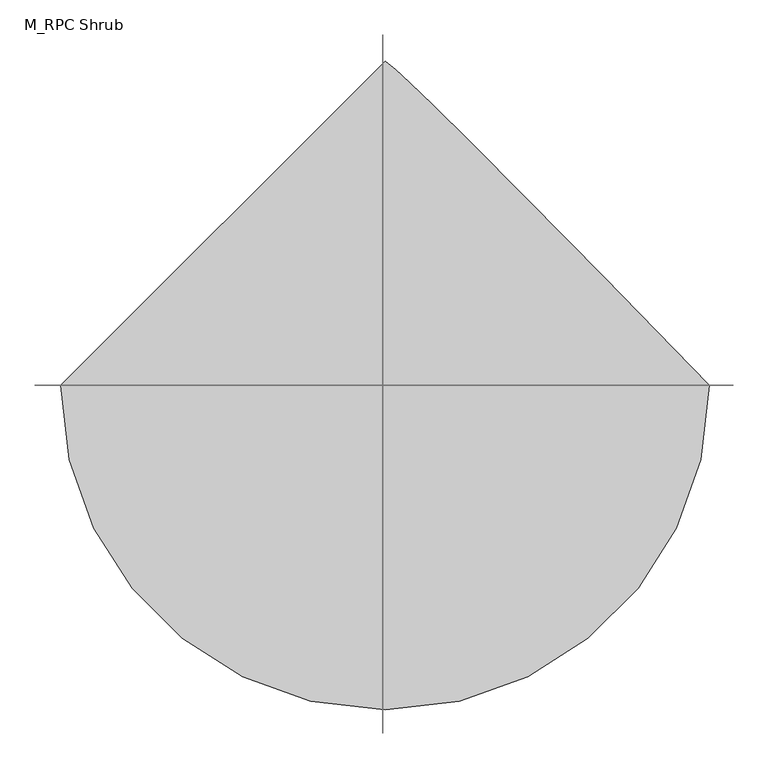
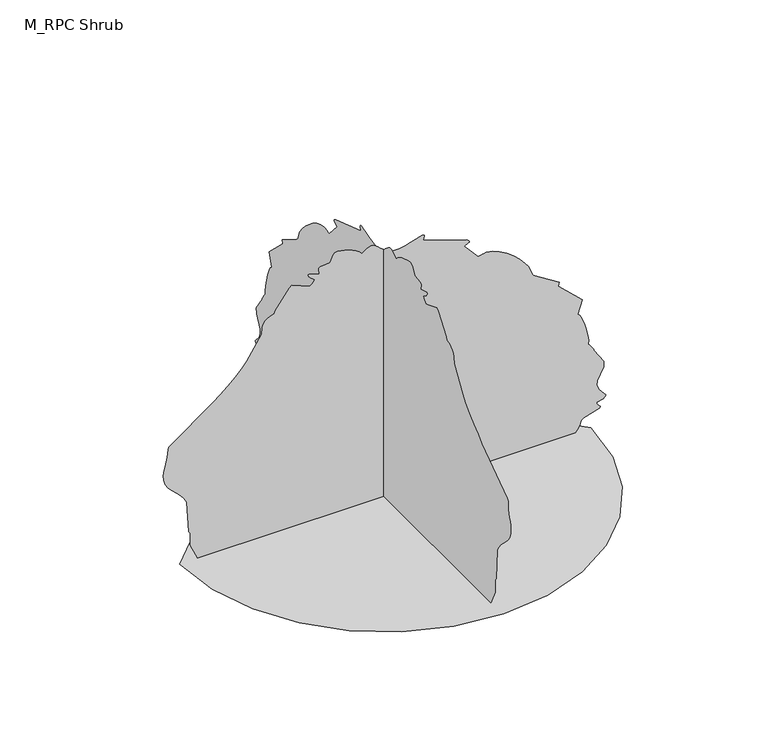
"""IFC4 building model written with IfcOpenShell, lengths in millimetres: geographic element geometry, M_RPC Shrub : Holly - 3.5 Meters."""

from ifc_helpers import new_model, si_unit, origin, place, context, project, spatial, triangles, source, transform, mapped, element, save


def m_rpc_shrub_6250ff07(model_context):
    return source(origin(), model_context, "Body", "Tessellation", [
        triangles([(-2613.0091095, 0.0, 0.0004364), (-2543.9330933, -598.7288976, 0.0004364), (-2347.1910324, -1148.5670294, 0.0004364), (-2038.5469357, -1633.7579807, 0.0004364), (-1633.7579807, -2038.5469357, 0.0004364), (-1148.5670294, -2347.1910324, 0.0004364), (-598.7288976, -2543.9261169, 0.0004364), (0.0001142, -2613.0091095, 0.0004364), (598.7288976, -2543.9330933, 0.0004364), (1148.5670294, -2347.1910324, 0.0004364), (1633.7579807, -2038.5469357, 0.0004364), (2038.5469357, -1633.7579807, 0.0004364), (2347.1910324, -1148.5670294, 0.0004364), (2543.9261169, -598.7288976, 0.0004364), (2613.0091095, 0.0002284, 0.0004364), (1763.8389942, 871.0379665, 0.0004364), (1134.308016, 1512.3499844, 0.0004364), (687.8059822, 1962.2120602, 0.0004364), (387.7321109, 2258.9209843, 0.0004364), (197.4770087, 2440.7670067, 0.0004364), (80.4348978, 2546.0329651, 0.0004364), (-0.0003427, 2613.0091095, 0.0004364), (-20.6931909, -537.8876985, 3492.3908981), (-20.6931909, -493.9913953, 3481.5340027), (-20.6931909, -446.5405126, 3466.4631203), (-20.6931909, -398.1698095, 3446.9680893), (-20.6931909, -351.5197137, 3422.8599678), (-20.6931909, -309.225711, 3393.9358612), (-20.6931909, -273.9261033, 3359.9928749), (-20.6931909, -265.4603046, 3364.0600685), (-20.6931909, -251.206905, 3374.4199013), (-20.6931909, -232.9663033, 3388.3641083), (-20.6931909, -212.533993, 3403.1480896), (-20.6931909, -191.7124987, 3416.0490463), (-20.6931909, -172.2980042, 3424.3229599), (-20.6931909, -156.0894914, 3425.260984), (-20.6931909, -132.6961972, 3420.256057), (-20.6931909, -104.7451962, 3404.4009201), (-20.6931909, -73.4769013, 3380.6570206), (-20.6931909, -40.1275016, 3351.9919098), (-20.6931909, -5.9389402, 3321.3670349), (-20.6931909, 27.8520904, 3291.742971), (-20.6931909, 60.0058895, 3266.0881416), (-20.6931909, 123.8257994, 3255.1120674), (-20.6931909, 196.4795042, 3260.201001), (-20.6931909, 272.2405048, 3275.9439354), (-20.6931909, 345.3828063, 3296.8949821), (-20.6931909, 491.8346955, 3336.787896), (-20.6931909, 507.0989164, 3334.9749252), (-20.6931909, 514.4426179, 3326.2248779), (-20.6931909, 515.8964899, 3313.086145), (-20.6931909, 503.4364946, 3267.1729591), (-20.6931909, 1055.9149813, 3079.7689911), (-20.6931909, 1083.5579887, 3058.327858), (-20.6931909, 1088.6259933, 3046.9669235), (-20.6931909, 1085.5179708, 3037.475061), (-20.6931909, 1076.4739735, 3029.3409645), (-20.6931909, 1025.5490295, 3000.3188988), (-20.6931909, 1199.5830288, 2803.0800659), (-20.6931909, 1206.3379944, 2803.9619888), (-20.6931909, 1218.8540182, 2806.3490524), (-20.6931909, 1235.3180569, 2809.8139572), (-20.6931909, 1253.8890163, 2813.950914), (-20.6931909, 1272.7400459, 2818.3541336), (-20.6931909, 1290.0580296, 2822.6030022), (-20.6931909, 1304.0019459, 2826.2850449), (-20.6931909, 1384.8589291, 2812.5649521), (-20.6931909, 1472.3099865, 2775.325074), (-20.6931909, 1561.6160179, 2720.4240646), (-20.6931909, 1648.0450447, 2653.735112), (-20.6931909, 1726.8790409, 2581.1241371), (-20.6931909, 1793.3649536, 2508.4500847), (-20.6931909, 1842.7920238, 2441.5861427), (-20.6931909, 1892.107037, 2309.9719379), (-20.6931909, 2232.2019756, 2095.3309696), (-20.6931909, 2220.595998, 2048.9210117), (-20.6931909, 2522.2608696, 1758.8549961), (-20.6931909, 2464.2519104, 1584.8209969), (-20.6931909, 2490.2849144, 1564.1360676), (-20.6931909, 2519.188092, 1509.7040703), (-20.6931909, 2548.0069725, 1432.9840439), (-20.6931909, 2573.7949333, 1345.4350273), (-20.6931909, 2593.6050613, 1258.5019615), (-20.6931909, 2604.4828857, 1183.6510071), (-20.6931909, 2603.4750984, 1132.3270323), (-20.6931909, 2611.728083, 1125.5369671), (-20.6931909, 2622.6059074, 1113.1960052), (-20.6931909, 2634.8699844, 1097.0679926), (-20.6931909, 2647.2881218, 1078.9239693), (-20.6931909, 2658.6281273, 1060.5279991), (-20.6931909, 2667.6368797, 1043.6580259), (-20.6931909, 2673.0900352, 1030.0779682), (-20.6931909, 2799.993045, 839.3630104), (-20.6931909, 2794.5259369, 762.6360077), (-20.6931909, 2713.011145, 603.3377006), (-20.6931909, 2710.18312, 546.5354991), (-20.6931909, 2742.5509117, 474.2121883), (-20.6931909, 2823.9258865, 378.1687048), (-20.6931909, 2819.1311211, 360.6085121), (-20.6931909, 2806.3769577, 347.2595086), (-20.6931909, 2788.0789467, 337.4504053), (-20.6931909, 2707.9009918, 320.1561848), (-20.6931909, 2707.6841446, 304.0604012), (-20.6931909, 2713.9139969, 290.497203), (-20.6931909, 2753.3310677, 249.1531059), (-20.6931909, 2754.3109497, 238.9393943), (-20.6931909, 2741.8788597, 224.930293), (-20.6931909, 2542.0148964, 166.401907), (-20.6931909, 2510.654892, 146.1200963), (-20.6931909, 2507.7428604, 124.6118978), (-20.6931909, 2501.1490768, 103.4600003), (-20.6931909, 2491.5028633, 82.6055956), (-20.6931909, 2479.4001137, 61.9882903), (-20.6931909, 2465.4559067, 41.5498303), (-20.6931909, 2450.2940414, 21.2299496), (-20.6931909, 2434.5159348, 0.969458), (-20.6931909, -2362.0030643, 0.0), (-20.6931909, -2455.1870567, 204.1319077), (-20.6931909, -2455.1870567, 366.5662153), (-20.6931909, -2474.4018723, 391.583511), (-20.6931909, -2499.4201126, 794.4089956), (-20.6931909, -2530.6891342, 855.2390036), (-20.6931909, -2576.1889732, 910.9590036), (-20.6931909, -2629.6339668, 963.9000309), (-20.6931909, -2684.7239182, 1016.4070004), (-20.6931909, -2735.1940933, 1070.8110197), (-20.6931909, -2774.7440048, 1129.457004), (-20.6931909, -2797.0949661, 1194.6900135), (-20.6931909, -2801.0569336, 1251.2779839), (-20.6931909, -2795.6598793, 1303.7710007), (-20.6931909, -2784.2149384, 1353.0860138), (-20.6931909, -2770.0538841, 1400.154071), (-20.6931909, -2746.8910538, 1491.216972), (-20.6931909, -2738.5540627, 1589.2870033), (-20.6931909, -2727.5218872, 1615.1239437), (-20.6931909, -2719.3180275, 1623.705978), (-20.6931909, -2162.6149441, 2020.9490273), (-20.6931909, -2077.4599674, 2092.7270588), (-20.6931909, -1981.6790405, 2175.1169426), (-20.6931909, -1886.0659813, 2262.2040688), (-20.6931909, -1801.3939693, 2348.0590027), (-20.6931909, -1738.4499916, 2426.7669891), (-20.6931909, -1550.1920059, 2721.8588608), (-20.6931909, -1542.4709656, 2813.0341095), (-20.6931909, -1530.3330437, 2850.7919792), (-20.6931909, -1510.4460308, 2882.9010658), (-20.6931909, -1481.1649693, 2909.0669106), (-20.6931909, -1440.8239723, 2928.9749977), (-20.6931909, -1387.757008, 2942.3099396), (-20.6931909, -1378.9159779, 2981.0340294), (-20.6931909, -1199.7299675, 3217.5009911), (-20.6931909, -1167.3129782, 3243.9679802), (-20.6931909, -935.2629707, 3151.1480644), (-20.6931909, -927.4649729, 3155.1379372), (-20.6931909, -917.8050247, 3163.1740746), (-20.6931909, -907.2980352, 3174.0239937), (-20.6931909, -877.2540115, 3220.7630013), (-20.6931909, -934.115003, 3265.0030334), (-20.6931909, -949.6899971, 3282.6359688), (-20.6931909, -958.9509871, 3299.4079102), (-20.6931909, -958.4680223, 3313.582917), (-20.6931909, -945.699979, 3318.2590851), (-20.6931909, -819.2380033, 3278.7789368), (-20.6931909, -824.9850363, 3342.7168945), (-20.6931909, -823.3750328, 3352.6779144), (-20.6931909, -819.2380033, 3359.9928749), (-20.6931909, -806.5469902, 3365.9361168), (-20.6931909, -686.8939013, 3381.4688896), (-20.6931909, -680.0114725, 3383.1981445), (-20.6931909, -637.239374, 3467.8700111), (-20.6931909, -618.2547043, 3488.1838875), (-20.6931909, -597.453503, 3500.0000267), (-20.6931909, -575.589685, 3499.2230392), (-558.5804034, -0.0002187, 3492.3908981), (-514.6841002, -0.0002177, 3481.5340027), (-467.2332175, -0.0002169, 3466.4631203), (-418.8625145, -0.000216, 3446.9680893), (-372.2123823, -0.000215, 3422.8599678), (-329.9191063, -0.0002137, 3393.9358612), (-294.6194986, -0.0002118, 3359.9928749), (-286.1536999, -0.0002119, 3364.0600685), (-271.9003003, -0.0002123, 3374.4199013), (-253.6590082, -0.0002129, 3388.3641083), (-233.226698, -0.0002136, 3403.1480896), (-212.405894, -0.0002143, 3416.0490463), (-192.990691, -0.0002151, 3424.3229599), (-176.7829049, -0.0002157, 3425.260984), (-153.3888931, -0.0002135, 3420.256057), (-125.4379012, -0.0002119, 3404.4009201), (-94.1695972, -0.0002106, 3380.6570206), (-60.8204791, -0.0002095, 3351.9919098), (-26.6319205, -0.0002085, 3321.3670349), (7.15911, -0.0002074, 3291.742971), (39.312912, -0.0002062, 3266.0881416), (103.132404, -0.0002055, 3255.1120674), (175.7861089, -0.0002057, 3260.201001), (251.5477999, -0.0002065, 3275.9439354), (324.6901013, -0.0002077, 3296.8949821), (471.1413002, -0.0002104, 3336.787896), (486.4054848, -0.00021, 3334.9749252), (493.7491862, -0.0002093, 3326.2248779), (495.2030946, -0.0002086, 3313.086145), (482.7437897, -0.0002063, 3267.1729591), (1035.223003, -0.0001944, 3079.7689911), (1062.8660105, -0.0001938, 3058.327858), (1067.9340151, -0.0001934, 3046.9669235), (1064.8259926, -0.000193, 3037.475061), (1055.7819952, -0.0001925, 3029.3409645), (1004.8569786, -0.0001904, 3000.3188988), (1178.8909779, -0.0001786, 2803.0800659), (1185.6460161, -0.0001786, 2803.9619888), (1198.1619673, -0.0001788, 2806.3490524), (1214.6260059, -0.000179, 2809.8139572), (1233.1969654, -0.0001792, 2813.950914), (1252.047995, -0.0001795, 2818.3541336), (1269.3659786, -0.0001798, 2822.6030022), (1283.3100403, -0.00018, 2826.2850449), (1364.1670235, -0.0001792, 2812.5649521), (1451.6179356, -0.0001769, 2775.325074), (1540.923967, -0.0001737, 2720.4240646), (1627.3529938, -0.0001697, 2653.735112), (1706.1800137, -0.0001654, 2581.1241371), (1772.673048, -0.000161, 2508.4500847), (1822.0999729, -0.000157, 2441.5861427), (1871.4080097, -0.0001492, 2309.9719379), (2211.51007, -0.0001364, 2095.3309696), (2199.9039471, -0.0001336, 2048.9210117), (2501.5691093, -0.0001164, 1758.8619724), (2443.5528831, -0.000106, 1584.8209969), (2469.5928635, -0.0001047, 1564.1360676), (2498.4960411, -0.0001015, 1509.7040703), (2527.3149216, -9.69e-05, 1432.9840439), (2553.1028824, -9.17e-05, 1345.4350273), (2572.9060341, -8.65e-05, 1258.5019615), (2583.7838585, -8.21e-05, 1183.6510071), (2582.7830475, -7.9e-05, 1132.3270323), (2591.0360321, -7.86e-05, 1125.5369671), (2601.9138565, -7.79e-05, 1113.1960052), (2614.1779335, -7.69e-05, 1097.0679926), (2626.5960709, -7.58e-05, 1078.9239693), (2637.9291, -7.47e-05, 1060.5279991), (2646.9451195, -7.37e-05, 1043.6580259), (2652.3979843, -7.29e-05, 1030.0779682), (2779.3009941, -6.15e-05, 839.3630104), (2773.833886, -5.7e-05, 762.6360077), (2692.3190941, -4.75e-05, 603.3377006), (2689.491069, -4.41e-05, 546.5354991), (2721.8588608, -3.98e-05, 474.2121883), (2803.2341263, -3.41e-05, 378.1687048), (2798.4390701, -3.3e-05, 360.6085121), (2785.6849068, -3.22e-05, 347.260199), (2767.3868958, -3.16e-05, 337.4504053), (2687.2089409, -3.06e-05, 320.1569115), (2686.9920937, -3.05e-05, 304.0604012), (2693.221946, -2.98e-05, 290.497203), (2732.6390167, -2.6e-05, 249.1537963), (2733.6188988, -2.58e-05, 238.9393943), (2721.1870995, -2.5e-05, 224.930293), (2521.3231361, -2.07e-05, 166.401907), (2489.9631317, -2.02e-05, 146.1200963), (2487.0511002, -2.07e-05, 124.6118978), (2480.4570259, -2.06e-05, 103.4600003), (2470.8041267, -2.01e-05, 82.6055956), (2458.7080627, -1.91e-05, 61.988431), (2444.7638557, -1.79e-05, 41.5500392), (2429.6019905, -1.65e-05, 21.2300904), (2413.8240292, -1.51e-05, 0.96964), (-2382.6949699, -1.13e-05, 0.0001851), (-2475.8791077, -2.37e-05, 204.1325981), (-2475.8791077, -3.34e-05, 366.5662153), (-2495.0939232, -3.49e-05, 391.583511), (-2520.1118729, -5.89e-05, 794.4089956), (-2551.3878708, -6.25e-05, 855.2459799), (-2596.8810242, -6.58e-05, 910.9590036), (-2650.3260178, -6.9e-05, 963.9000309), (-2705.4229454, -7.21e-05, 1016.4070004), (-2755.8861443, -7.53e-05, 1070.8110197), (-2795.4360558, -7.88e-05, 1129.457004), (-2817.7870171, -8.27e-05, 1194.6900135), (-2821.7489845, -8.61e-05, 1251.2779839), (-2816.3519302, -8.92e-05, 1303.7710007), (-2804.9069893, -9.22e-05, 1353.0860138), (-2790.7459351, -9.5e-05, 1400.154071), (-2767.5831047, -0.0001004, 1491.216972), (-2759.2530899, -0.0001063, 1589.2870033), (-2748.2139381, -0.0001079, 1615.1239437), (-2740.0170547, -0.0001085, 1623.705978), (-2183.306995, -0.000133, 2020.9490273), (-2098.1520184, -0.000138, 2092.7270588), (-2002.3709461, -0.0001435, 2175.1169426), (-1906.7580322, -0.0001491, 2262.2040688), (-1822.0860203, -0.0001542, 2348.0590027), (-1759.1420425, -0.0001583, 2426.7669891), (-1570.8840569, -0.0001738, 2721.8588608), (-1563.1630165, -0.0001792, 2813.0341095), (-1551.0249493, -0.0001814, 2850.7919792), (-1531.1379364, -0.0001834, 2882.9010658), (-1501.8570202, -0.0001849, 2909.0669106), (-1461.5160233, -0.0001861, 2928.9749977), (-1408.4560352, -0.0001869, 2942.3099396), (-1399.6080288, -0.0001892, 2981.0340294), (-1220.4289948, -0.0002033, 3217.5009911), (-1188.0050291, -0.0002049, 3243.9679802), (-955.9550217, -0.0001993, 3151.1480644), (-948.1570238, -0.0001996, 3155.1379372), (-938.497003, -0.0002001, 3163.1740746), (-927.9900135, -0.0002007, 3174.0239937), (-897.9459898, -0.0002035, 3220.7630013), (-954.8069813, -0.000206, 3265.0030334), (-970.3819754, -0.0002071, 3282.6359688), (-979.6429653, -0.0002081, 3299.4079102), (-979.1600006, -0.000209, 3313.582917), (-966.39203, -0.0002086, 3318.2590851), (-839.9370306, -0.000207, 3278.7789368), (-845.6770145, -0.0002101, 3342.7168945), (-844.0670111, -0.0002109, 3352.6779144), (-839.9370306, -0.0002118, 3359.9928749), (-827.2389685, -0.0002118, 3365.9361168), (-707.5879869, -0.000213, 3381.4688896), (-700.7070116, -0.0002132, 3383.1981445), (-657.9320789, -0.0002165, 3467.8700111), (-638.9481359, -0.0002177, 3488.1838875), (-618.1469347, -0.0002189, 3500.0000267), (-596.2831166, -0.0002201, 3499.2230392)], [[21, 22, 1], [20, 21, 1], [19, 20, 1], [18, 19, 1], [17, 18, 1], [17, 1, 2], [17, 2, 3], [17, 3, 4], [16, 17, 4], [16, 4, 5], [16, 5, 6], [16, 6, 7], [16, 7, 8], [16, 8, 9], [16, 9, 10], [16, 10, 11], [16, 11, 12], [15, 16, 12], [14, 15, 12], [13, 14, 12], [74, 75, 76], [160, 161, 162], [116, 117, 118], [116, 118, 119], [76, 77, 78], [159, 160, 162], [158, 159, 162], [157, 158, 162], [157, 162, 163], [151, 152, 153], [115, 116, 119], [114, 115, 119], [113, 114, 119], [112, 113, 119], [111, 112, 119], [110, 111, 119], [109, 110, 119], [97, 98, 99], [97, 99, 100], [97, 100, 101], [97, 101, 102], [109, 119, 120], [109, 120, 121], [109, 121, 122], [105, 106, 107], [104, 105, 107], [104, 107, 108], [103, 104, 108], [150, 151, 153], [149, 150, 153], [48, 49, 50], [48, 50, 51], [48, 51, 52], [47, 48, 52], [109, 122, 123], [54, 55, 56], [54, 56, 57], [53, 54, 57], [53, 57, 58], [52, 53, 58], [108, 109, 123], [102, 103, 108], [92, 93, 94], [92, 94, 95], [96, 97, 102], [96, 102, 108], [96, 108, 123], [95, 96, 123], [92, 95, 123], [91, 92, 123], [90, 91, 123], [89, 90, 123], [88, 89, 123], [87, 88, 123], [86, 87, 123], [85, 86, 123], [84, 85, 123], [83, 84, 123], [82, 83, 123], [81, 82, 123], [80, 81, 123], [79, 80, 123], [78, 79, 123], [76, 78, 123], [74, 76, 123], [73, 74, 123], [72, 73, 123], [71, 72, 123], [70, 71, 123], [69, 70, 123], [68, 69, 123], [67, 68, 123], [66, 67, 123], [65, 66, 123], [64, 65, 123], [63, 64, 123], [62, 63, 123], [61, 62, 123], [60, 61, 123], [59, 60, 123], [58, 59, 123], [52, 58, 123], [47, 52, 123], [46, 47, 123], [45, 46, 123], [44, 45, 123], [43, 44, 123], [42, 43, 123], [41, 42, 123], [40, 41, 123], [39, 40, 123], [38, 39, 123], [37, 38, 123], [36, 37, 123], [35, 36, 123], [34, 35, 123], [33, 34, 123], [32, 33, 123], [31, 32, 123], [30, 31, 123], [29, 30, 123], [29, 123, 124], [28, 29, 124], [27, 28, 124], [26, 27, 124], [25, 26, 124], [24, 25, 124], [23, 24, 124], [173, 23, 124], [173, 124, 125], [173, 125, 126], [165, 166, 167], [164, 165, 167], [163, 164, 167], [163, 167, 168], [171, 172, 173], [170, 171, 173], [169, 170, 173], [169, 173, 126], [168, 169, 126], [168, 126, 127], [168, 127, 128], [168, 128, 129], [168, 129, 130], [168, 130, 131], [168, 131, 132], [145, 146, 147], [145, 147, 148], [144, 145, 148], [144, 148, 149], [143, 144, 149], [143, 149, 153], [142, 143, 153], [134, 135, 136], [133, 134, 136], [133, 136, 137], [132, 133, 137], [142, 153, 154], [156, 157, 163], [156, 163, 168], [141, 142, 154], [132, 137, 138], [132, 138, 139], [141, 154, 155], [140, 141, 155], [155, 156, 168], [155, 168, 132], [140, 155, 132], [140, 132, 139], [225, 226, 227], [311, 312, 313], [267, 268, 269], [267, 269, 270], [227, 228, 229], [310, 311, 313], [309, 310, 313], [308, 309, 313], [308, 313, 314], [302, 303, 304], [266, 267, 270], [265, 266, 270], [264, 265, 270], [263, 264, 270], [262, 263, 270], [261, 262, 270], [260, 261, 270], [248, 249, 250], [248, 250, 251], [248, 251, 252], [248, 252, 253], [260, 270, 271], [260, 271, 272], [260, 272, 273], [256, 257, 258], [255, 256, 258], [255, 258, 259], [254, 255, 259], [301, 302, 304], [300, 301, 304], [199, 200, 201], [199, 201, 202], [199, 202, 203], [198, 199, 203], [260, 273, 274], [205, 206, 207], [205, 207, 208], [204, 205, 208], [204, 208, 209], [203, 204, 209], [259, 260, 274], [253, 254, 259], [243, 244, 245], [243, 245, 246], [247, 248, 253], [247, 253, 259], [247, 259, 274], [246, 247, 274], [243, 246, 274], [242, 243, 274], [241, 242, 274], [240, 241, 274], [239, 240, 274], [238, 239, 274], [237, 238, 274], [236, 237, 274], [235, 236, 274], [234, 235, 274], [233, 234, 274], [232, 233, 274], [231, 232, 274], [230, 231, 274], [229, 230, 274], [227, 229, 274], [225, 227, 274], [224, 225, 274], [223, 224, 274], [222, 223, 274], [221, 222, 274], [220, 221, 274], [219, 220, 274], [218, 219, 274], [217, 218, 274], [216, 217, 274], [215, 216, 274], [214, 215, 274], [213, 214, 274], [212, 213, 274], [211, 212, 274], [210, 211, 274], [209, 210, 274], [203, 209, 274], [198, 203, 274], [197, 198, 274], [196, 197, 274], [195, 196, 274], [194, 195, 274], [193, 194, 274], [192, 193, 274], [191, 192, 274], [190, 191, 274], [189, 190, 274], [188, 189, 274], [187, 188, 274], [186, 187, 274], [185, 186, 274], [184, 185, 274], [183, 184, 274], [182, 183, 274], [181, 182, 274], [180, 181, 274], [180, 274, 275], [179, 180, 275], [178, 179, 275], [177, 178, 275], [176, 177, 275], [175, 176, 275], [174, 175, 275], [324, 174, 275], [324, 275, 276], [324, 276, 277], [316, 317, 318], [315, 316, 318], [314, 315, 318], [314, 318, 319], [322, 323, 324], [321, 322, 324], [320, 321, 324], [320, 324, 277], [319, 320, 277], [319, 277, 278], [319, 278, 279], [319, 279, 280], [319, 280, 281], [319, 281, 282], [319, 282, 283], [296, 297, 298], [296, 298, 299], [295, 296, 299], [295, 299, 300], [294, 295, 300], [294, 300, 304], [293, 294, 304], [285, 286, 287], [284, 285, 287], [284, 287, 288], [283, 284, 288], [293, 304, 305], [307, 308, 314], [307, 314, 319], [292, 293, 305], [283, 288, 289], [283, 289, 290], [292, 305, 306], [291, 292, 306], [306, 307, 319], [306, 319, 283], [291, 306, 283], [291, 283, 290]], closed=False),
    ])


if __name__ == "__main__":
    model = new_model("IFC4")
    model_context = context("Model", 3, world=origin())
    ifc_project = project(units=[si_unit("LENGTHUNIT", "METRE", prefix="MILLI")], contexts=[model_context])
    site = spatial("IfcSite", under=ifc_project)
    building = spatial("IfcBuilding", under=site)
    placement = place(None, origin())
    m_rpc_shrub_shape = m_rpc_shrub_6250ff07(model_context)
    element("IfcGeographicElement", 1, ObjectType="M_RPC Shrub : Holly - 3.5 Meters", at=placement, inside=building, context=model_context, shape_type="MappedRepresentation", body=[
        mapped(m_rpc_shrub_shape, transform((0.0, 0.0, 0.0), x_axis=(1.0, 0.0, 0.0), y_axis=(0.0, 1.0, 0.0), z_axis=(0.0, 0.0, 1.0))),
    ])
    save(model, "model.ifc")
